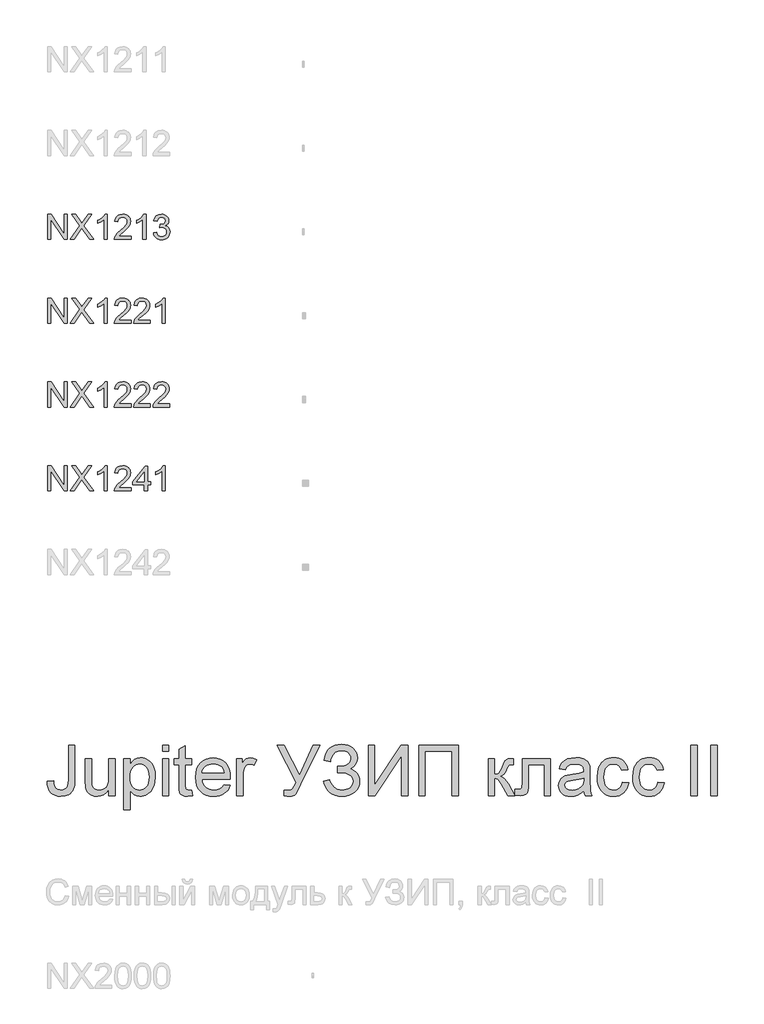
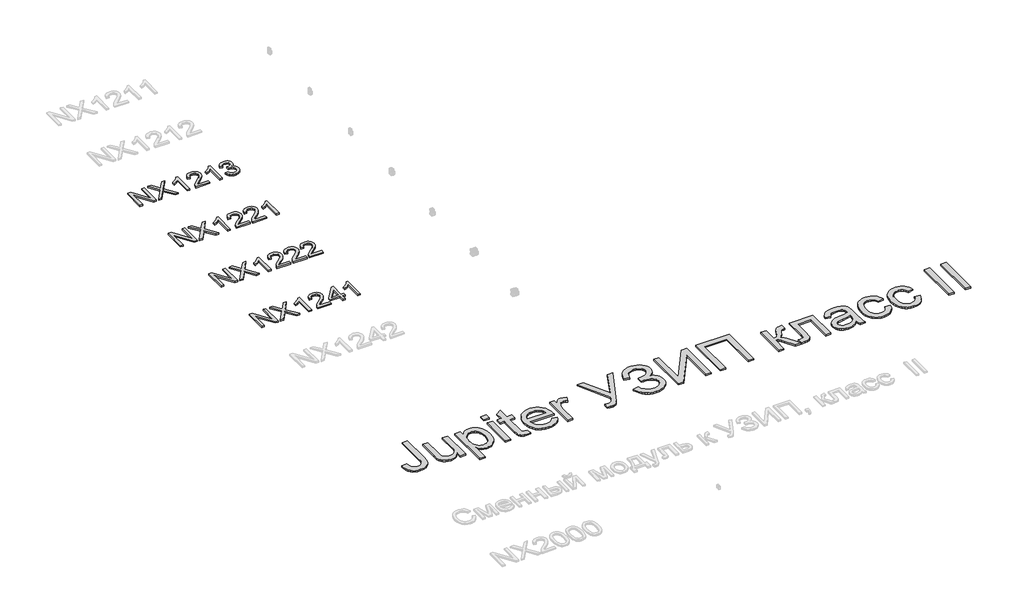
# One storey, part 29 of 124: 5 proxies.
"""IFC4 building model written with IfcOpenShell, lengths in millimetres."""

from ifc_helpers import new_model, si_unit, origin, origin_with_axes, place, context, project, spatial, polyline, outline, extrude, element, save

model = new_model("IFC4")

# Units and contexts
model_context = context("Model", 3, world=origin())
ifc_project = project(units=[si_unit("LENGTHUNIT", "METRE", prefix="MILLI")], contexts=[model_context])

# Site, building, storey
site = spatial("IfcSite", under=ifc_project)
building = spatial("IfcBuilding", under=site)
storey = spatial("IfcBuildingStorey", under=building, Name="Этаж 01", Elevation=0.0)

# Proxies
placement = place(None, origin())
element("IfcBuildingElementProxy", 1, Name="600 мм Arial", ObjectType="600 мм Arial", at=placement, inside=storey, context=model_context, shape_type="SweptSolid", body=[
    extrude(outline(polyline([(49495.1131782, -114647.4656715), (49570.4554108, -114637.7535868), (49573.1133582, -114667.7083783), (49578.2912973, -114692.5312159), (49585.989228, -114712.2220997), (49596.2071504, -114726.7810297), (49608.7887147, -114737.2748636), (49623.5775709, -114744.7704592), (49640.573719, -114749.2678166), (49659.7771592, -114750.7669358), (49687.6074321, -114747.3640273), (49711.3542149, -114737.1553019), (49729.6747383, -114721.0788588), (49741.2262329, -114700.0727968), (49747.3514681, -114669.6673499), (49749.3932132, -114625.3927518), (49749.3932132, -114213.9535284), (49824.7354458, -114213.9535284), (49824.7354458, -114624.0683766), (49820.1921032, -114691.1516584), (49814.5129249, -114718.2783571), (49806.5620753, -114741.1284275), (49796.1418178, -114760.6123777), (49783.0544158, -114777.6407155), (49767.2998693, -114792.213441), (49748.8781784, -114804.3305543), (49705.9647437, -114820.6645148), (49656.245492, -114826.1091684), (49619.1170017, -114823.2994696), (49586.6054304, -114814.8703734), (49558.7107781, -114800.8218797), (49535.4330448, -114781.1539886), (49517.1860979, -114755.9402763), (49504.3838044, -114725.2543194), (49497.0261645, -114689.0961178), (49495.1131782, -114647.4656715)])), origin_with_axes(), (0.0, 0.0, 1.0), 20.0),
    extrude(outline(polyline([(50229.6999461, -114816.6913893), (50229.6999461, -114740.6133927), (50202.4398903, -114778.0177946), (50170.6916741, -114804.7352245), (50134.4552976, -114820.7656824), (50093.7307607, -114826.1091684), (50057.0345317, -114822.356772), (50022.8766884, -114811.099583), (49994.218681, -114794.1770112), (49974.0219595, -114773.4284667), (49960.4287198, -114748.22855), (49951.5811578, -114717.9518618), (49947.1665738, -114647.9071299), (49947.1665738, -114374.0557727), (50022.5088064, -114374.0557727), (50022.5088064, -114612.4433056), (50023.6492406, -114660.1208122), (50027.0705432, -114689.2570662), (50038.0518207, -114714.8800471), (50056.8689848, -114734.3593988), (50082.2712366, -114746.6650515), (50113.0077773, -114750.7669358), (50145.5101515, -114746.573081), (50175.9155984, -114733.9915168), (50200.9867564, -114714.1810713), (50217.4862639, -114688.300573), (50226.6465256, -114652.8551427), (50229.6999461, -114604.3499017), (50229.6999461, -114374.0557727), (50305.0421787, -114374.0557727), (50305.0421787, -114816.6913893), (50229.6999461, -114816.6913893)])), origin_with_axes(), (0.0, 0.0, 1.0), 20.0),
    extrude(outline(polyline([(50408.6377486, -114986.2114127), (50408.6377486, -114374.0557727), (50483.9799812, -114374.0557727), (50483.9799812, -114447.9264773), (50508.5544985, -114411.4877657), (50536.0720717, -114385.4601146), (50568.1513817, -114369.8435239), (50606.4111092, -114364.6379936), (50632.6870807, -114366.4590095), (50657.3627655, -114371.9220571), (50680.4381637, -114381.0271365), (50701.9132751, -114393.7742476), (50721.3190504, -114409.8322967), (50738.1864399, -114428.87019), (50752.5154436, -114450.8879274), (50764.3060615, -114475.885509), (50780.0881991, -114531.398902), (50785.3489116, -114591.9890666), (50779.4076174, -114656.4235981), (50771.9809996, -114686.0886825), (50761.5837348, -114714.0523126), (50748.358377, -114739.5833231), (50732.4474807, -114761.9505484), (50713.8510459, -114781.1539886), (50692.5690725, -114797.1936436), (50669.6454256, -114809.8441857), (50646.1239706, -114818.8802872), (50622.0047073, -114824.3019481), (50597.2876357, -114826.1091684), (50562.6515459, -114821.2715201), (50531.7310642, -114806.7585754), (50505.2619546, -114784.8512026), (50483.9799812, -114757.8302701), (50483.9799812, -114986.2114127), (50408.6377486, -114986.2114127)]), holes=[polyline([(50483.9799812, -114598.9052482), (50486.0171277, -114635.2152011), (50492.1285674, -114666.4483825), (50502.3143001, -114692.6047923), (50516.574326, -114713.6844307), (50533.7406196, -114729.9080266), (50552.6451556, -114741.4963095), (50573.287934, -114748.4492792), (50595.6689549, -114750.7669358), (50618.3718726, -114748.3665057), (50639.3917301, -114741.1652157), (50658.7285274, -114729.1630656), (50676.3822647, -114712.3600555), (50691.092946, -114690.517062), (50701.6005754, -114663.3949619), (50707.9051531, -114630.9937552), (50710.006679, -114593.3134418), (50707.9557369, -114557.3161886), (50701.8029105, -114526.1381895), (50691.5481999, -114499.7794446), (50677.1916051, -114478.2399537), (50659.9839247, -114461.501323), (50641.1759577, -114449.5451581), (50620.767704, -114442.3714592), (50598.7591637, -114439.9802262), (50576.8196012, -114442.5232105), (50556.1768227, -114450.1521634), (50536.8308283, -114462.8670849), (50518.7816179, -114480.6679749), (50503.5559019, -114503.3157102), (50492.6803904, -114530.5711676), (50486.1550835, -114562.4343469), (50483.9799812, -114598.9052482)])]), origin_with_axes(), (0.0, 0.0, 1.0), 20.0),
    extrude(outline(polyline([(50870.1089233, -114289.295761), (50870.1089233, -114213.9535284), (50945.4511559, -114213.9535284), (50945.4511559, -114289.295761), (50870.1089233, -114289.295761)])), origin_with_axes(), (0.0, 0.0, 1.0), 20.0),
    extrude(outline(polyline([(50870.1089233, -114816.6913893), (50870.1089233, -114374.0557727), (50945.4511559, -114374.0557727), (50945.4511559, -114816.6913893), (50870.1089233, -114816.6913893)])), origin_with_axes(), (0.0, 0.0, 1.0), 20.0),
    extrude(outline(polyline([(51218.5667492, -114753.8571445), (51227.9845282, -114818.8986813), (51171.6250066, -114826.1091684), (51135.4622064, -114822.9821714), (51108.4964562, -114813.6011805), (51089.4401689, -114799.1434181), (51077.0057574, -114780.7861066), (51070.1631523, -114749.2586196), (51067.8822839, -114695.2903309), (51067.8822839, -114449.3980053), (51011.3756095, -114449.3980053), (51011.3756095, -114374.0557727), (51067.8822839, -114374.0557727), (51067.8822839, -114266.4870773), (51143.2245165, -114222.1940851), (51143.2245165, -114374.0557727), (51218.5667492, -114374.0557727), (51218.5667492, -114449.3980053), (51143.2245165, -114449.3980053), (51143.2245165, -114693.0830389), (51147.1976421, -114731.9313776), (51160.0735119, -114745.6901642), (51170.9444249, -114749.4977429), (51185.7516752, -114750.7669358), (51218.5667492, -114753.8571445)])), origin_with_axes(), (0.0, 0.0, 1.0), 20.0),
    extrude(outline(polyline([(51603.8127745, -114684.8424822), (51677.6834791, -114694.2602613), (51666.3573122, -114723.8471708), (51651.0672168, -114749.9208072), (51631.8131929, -114772.4811705), (51608.5952404, -114791.5282608), (51581.6524828, -114806.6574079), (51551.2240433, -114817.4639415), (51517.3099219, -114823.9478617), (51479.9101185, -114826.1091684), (51433.161514, -114822.3797647), (51391.5080751, -114811.1915535), (51354.9498018, -114792.5445348), (51323.4866942, -114766.4387088), (51298.18561, -114733.6006422), (51280.113407, -114694.756902), (51269.2700851, -114649.9074883), (51265.6556445, -114599.052401), (51269.3068733, -114546.4728668), (51280.2605598, -114500.1289325), (51298.5167038, -114460.0205979), (51324.0753054, -114426.1478632), (51355.4556396, -114399.2372953), (51391.1769813, -114380.015461), (51431.2393306, -114368.4823605), (51475.6426874, -114364.6379936), (51518.615903, -114368.4731634), (51557.4780372, -114379.9786728), (51592.2290902, -114399.1545218), (51622.8690619, -114426.0007104), (51647.880439, -114459.7998687), (51665.7457084, -114499.8346269), (51676.46487, -114546.1049848), (51680.0379239, -114598.6109426), (51679.5964655, -114618.9180287), (51340.9978772, -114618.9180287), (51345.3618773, -114648.9831847), (51354.0392939, -114675.3143386), (51367.0301268, -114697.9114901), (51384.3343762, -114716.7746394), (51404.9955487, -114731.6462691), (51428.0571513, -114742.2688617), (51453.5191839, -114748.6424172), (51481.3816465, -114750.7669358), (51521.480784, -114746.8305984), (51555.2523511, -114735.0215864), (51582.696348, -114714.6041356), (51603.8127745, -114684.8424822)]), holes=[polyline([(51340.9978772, -114543.5757961), (51604.6956913, -114543.5757961), (51594.50536, -114503.7709642), (51585.7405715, -114488.1175853), (51574.5293677, -114475.2968978), (51553.9831583, -114459.845854), (51530.6042575, -114448.8093941), (51504.3926653, -114442.1875182), (51475.3483818, -114439.9802262), (51448.8562796, -114441.7414613), (51424.5622724, -114447.0251664), (51402.46636, -114455.8313417), (51382.5685426, -114468.1599871), (51365.8712986, -114483.4408854), (51353.3771063, -114501.1038197), (51345.0859658, -114521.14879), (51340.9978772, -114543.5757961)])]), origin_with_axes(), (0.0, 0.0, 1.0), 20.0),
    extrude(outline(polyline([(51755.3801565, -114816.6913893), (51755.3801565, -114374.0557727), (51821.3046101, -114374.0557727), (51821.3046101, -114439.5387678), (51845.6583981, -114401.5733459), (51868.0991998, -114379.2061206), (51890.6135779, -114368.2800254), (51915.1880952, -114364.6379936), (51952.7120587, -114370.4505292), (51990.8246334, -114387.8881357), (51965.661505, -114455.43127), (51939.1740013, -114443.8429872), (51912.6864977, -114439.9802262), (51890.1905137, -114443.6958344), (51870.0857626, -114454.8426588), (51853.8437725, -114472.574571), (51842.9360714, -114496.0454423), (51833.7758097, -114538.1311426), (51830.7223891, -114584.0428156), (51830.7223891, -114816.6913893), (51755.3801565, -114816.6913893)])), origin_with_axes(), (0.0, 0.0, 1.0), 20.0),
    extrude(outline(polyline([(52240.395779, -114213.9535284), (52323.8314155, -114213.9535284), (52504.0935931, -114570.9462165), (52666.2559766, -114213.9535284), (52748.9558491, -114213.9535284), (52520.1332481, -114683.518107), (52485.5891287, -114756.4323185), (52457.8876145, -114798.8859007), (52444.4323305, -114810.7960803), (52428.3466903, -114819.3033515), (52409.6306938, -114824.4077141), (52388.284341, -114826.1091684), (52357.492618, -114823.7547236), (52320.4469011, -114816.6913893), (52320.4469011, -114750.7669358), (52379.7494787, -114750.7669358), (52403.4778674, -114746.573081), (52423.7481654, -114733.9915168), (52443.2091229, -114706.5107317), (52464.5094904, -114657.6192146), (52240.395779, -114213.9535284)])), origin_with_axes(), (0.0, 0.0, 1.0), 20.0),
    extrude(outline(polyline([(52791.3358549, -114647.1713659), (52866.6780876, -114628.3358078), (52872.8263154, -114648.7210688), (52882.5889838, -114669.1155269), (52912.9576425, -114709.9320343), (52933.2877213, -114727.7973037), (52956.6804177, -114740.5582104), (52983.1357316, -114748.2147544), (53012.6536632, -114750.7669358), (53042.6866296, -114748.8493509), (53069.3626728, -114743.0965962), (53092.6817928, -114733.5086717), (53112.6439895, -114720.0855774), (53128.6422578, -114703.9493534), (53140.0695923, -114686.2220397), (53146.925993, -114666.9036364), (53149.2114598, -114645.9941435), (53146.7144608, -114623.7234873), (53139.2234637, -114603.853261), (53126.7384685, -114586.3834647), (53109.2594752, -114571.3140985), (53087.4762625, -114559.1785912), (53062.0786093, -114550.5103717), (53033.0665154, -114545.30944), (53000.439981, -114543.5757961), (52960.8558783, -114543.5757961), (52960.8558783, -114468.2335635), (53010.0600952, -114466.7068532), (53046.1309248, -114462.1267223), (53073.9244095, -114451.2742035), (53098.2965917, -114430.9303292), (53115.2927399, -114404.1301258), (53120.9581226, -114373.9086199), (53119.0727274, -114355.5467098), (53113.4165417, -114338.4264015), (53103.9895656, -114322.5476949), (53090.791799, -114307.91059), (53074.375065, -114295.646324), (53055.2911865, -114286.8861339), (53033.5401635, -114281.6300199), (53009.1219961, -114279.8779819), (52967.3857837, -114285.2674532), (52932.2346591, -114301.4358669), (52905.305697, -114326.5070248), (52888.2359725, -114358.6047289), (52879.1308931, -114389.6907575), (52876.0958666, -114411.726889), (52800.753634, -114392.8913309), (52810.0817419, -114348.7454914), (52824.160126, -114310.4857639), (52842.9887863, -114278.1121484), (52866.567723, -114251.6246447), (52894.8969358, -114231.023253), (52927.976425, -114216.3079732), (52965.8061904, -114207.4788053), (53008.3862321, -114204.5357493), (53049.4096731, -114207.5937684), (53085.9541508, -114216.7678257), (53118.0196652, -114232.0579211), (53145.6062163, -114253.4640547), (53167.7849021, -114278.9628755), (53183.6268205, -114306.5310325), (53193.1319715, -114336.1685257), (53196.3003552, -114367.8753552), (53191.3707365, -114407.5238372), (53176.5818803, -114442.4450356), (53151.9337866, -114472.6389504), (53117.4264555, -114498.1055815), (53139.3062371, -114506.0932193), (53159.3282147, -114517.4009921), (53177.4923882, -114532.0289), (53193.7987577, -114549.9769428), (53207.2540416, -114570.5461449), (53216.8649588, -114593.0375303), (53222.631509, -114617.4510992), (53224.5536925, -114643.7868516), (53220.8656755, -114681.0486992), (53209.8016245, -114715.1375645), (53191.3615394, -114746.0534477), (53165.5454204, -114773.7963487), (53133.6408544, -114796.6832073), (53096.9354283, -114813.0309634), (53055.4291422, -114822.8396171), (53009.1219961, -114826.1091684), (52969.087238, -114823.3132652), (52932.7129057, -114814.9255557), (52899.9989993, -114800.9460399), (52870.9455187, -114781.3747178), (52845.552464, -114756.2115893), (52823.8198351, -114725.4566545), (52805.7476321, -114689.1099134), (52791.3358549, -114647.1713659)])), origin_with_axes(), (0.0, 0.0, 1.0), 20.0),
    extrude(outline(polyline([(53328.1492623, -114213.9535284), (53403.4914949, -114213.9535284), (53403.4914949, -114691.3172053), (53718.987094, -114213.9535284), (53799.0382161, -114213.9535284), (53799.0382161, -114816.6913893), (53723.6959835, -114816.6913893), (53723.6959835, -114340.6520875), (53408.9361484, -114816.6913893), (53328.1492623, -114816.6913893), (53328.1492623, -114213.9535284)])), origin_with_axes(), (0.0, 0.0, 1.0), 20.0),
    extrude(outline(polyline([(53930.8871232, -114213.9535284), (54401.776077, -114213.9535284), (54401.776077, -114816.6913893), (54326.4338444, -114816.6913893), (54326.4338444, -114289.295761), (54006.2293558, -114289.295761), (54006.2293558, -114816.6913893), (53930.8871232, -114816.6913893), (53930.8871232, -114213.9535284)])), origin_with_axes(), (0.0, 0.0, 1.0), 20.0),
    extrude(outline(polyline([(54759.6516819, -114374.0557727), (54834.9939145, -114374.0557727), (54834.9939145, -114562.4113542), (54865.6384847, -114559.0268399), (54885.4673243, -114548.8732968), (54903.0152955, -114522.3857932), (54926.8172605, -114469.999397), (54946.0023066, -114427.1595387), (54961.1774389, -114401.9412279), (54975.3408957, -114388.2008354), (54991.4909153, -114379.7947318), (55013.8397465, -114375.4905125), (55046.5996382, -114374.0557727), (55061.0206124, -114374.0557727), (55061.0206124, -114449.8394637), (55040.7135262, -114449.3980053), (55017.1690786, -114451.3845681), (55003.9253267, -114457.3442564), (54993.1831725, -114473.9357344), (54978.0264343, -114506.9347494), (54962.115538, -114539.9889466), (54947.6393815, -114560.5719443), (54930.1098044, -114574.3123368), (54905.0386464, -114586.8387187), (54928.9141879, -114597.4429172), (54952.5690002, -114616.1589137), (54976.0030833, -114642.9867082), (54999.2164372, -114677.9263007), (55079.8561705, -114816.6913893), (54994.2132421, -114816.6913893), (54915.1921895, -114680.8693567), (54893.8550338, -114644.7249507), (54875.460934, -114623.406189), (54856.8828933, -114612.9767345), (54834.9939145, -114609.5002496), (54834.9939145, -114816.6913893), (54759.6516819, -114816.6913893), (54759.6516819, -114374.0557727)])), origin_with_axes(), (0.0, 0.0, 1.0), 20.0),
    extrude(outline(polyline([(55164.6161822, -114374.0557727), (55503.656229, -114374.0557727), (55503.656229, -114816.2499309), (55428.3139964, -114816.2499309), (55428.3139964, -114449.3980053), (55239.9584148, -114449.3980053), (55239.9584148, -114660.5622705), (55238.689222, -114721.8514109), (55234.8816433, -114757.9774229), (55225.3718937, -114780.0319485), (55206.9961881, -114799.1066299), (55179.1107328, -114812.2951995), (55141.0717345, -114816.6913893), (55079.8561705, -114812.8654166), (55079.8561705, -114741.3491567), (55113.5541613, -114741.3491567), (55133.9900061, -114740.1903284), (55147.620034, -114736.7138435), (55156.1365022, -114730.717367), (55161.2316679, -114721.9985637), (55164.6161822, -114656.2948394), (55164.6161822, -114374.0557727)])), origin_with_axes(), (0.0, 0.0, 1.0), 20.0),
    extrude(outline(polyline([(55899.2029502, -114760.1847148), (55863.205697, -114791.0500142), (55826.141586, -114811.2467358), (55787.1644886, -114822.3935602), (55745.4282762, -114826.1091684), (55711.8820368, -114823.8742853), (55682.4652727, -114817.1696359), (55657.1779841, -114805.9952203), (55636.0201708, -114790.3510384), (55619.3137297, -114771.2303717), (55607.3805575, -114749.6265016), (55600.2206542, -114725.5394279), (55597.8340197, -114698.9691508), (55601.4392633, -114667.7359695), (55612.254994, -114639.3722676), (55628.9384424, -114615.0920559), (55650.1468395, -114596.109345), (55675.0708446, -114581.7619472), (55702.9011176, -114571.3876749), (55768.0898071, -114560.0569095), (55845.1242969, -114548.1375328), (55898.7614918, -114534.158017), (55899.2029502, -114517.382598), (55894.0158141, -114483.7581837), (55887.5318939, -114471.3053781), (55878.4544057, -114461.7588404), (55862.7642386, -114452.2306967), (55843.6527689, -114445.4248798), (55795.165922, -114439.9802262), (55750.2843185, -114443.6038639), (55718.9407726, -114454.4747768), (55697.5668286, -114474.5795279), (55682.5940314, -114505.9046798), (55607.2517988, -114496.4869007), (55620.3300037, -114455.2841172), (55639.8461436, -114422.9105017), (55667.6212342, -114398.1520434), (55705.4762915, -114379.7947318), (55751.7742406, -114368.4271782), (55804.8780066, -114364.6379936), (55855.8112689, -114367.9857198), (55896.1863178, -114378.0288983), (55926.6285529, -114393.1304542), (55947.7633736, -114411.6533126), (55961.7796776, -114434.5539668), (55970.8663629, -114462.7889099), (55974.5451828, -114528.7133635), (55974.5451828, -114622.4496958), (55978.3711556, -114753.3421097), (55984.0365383, -114785.6973312), (55993.380741, -114816.6913893), (55918.0385083, -114816.6913893), (55905.9719789, -114790.4981912), (55899.2029502, -114760.1847148)]), holes=[polyline([(55899.2029502, -114609.5002496), (55848.5823877, -114622.0450257), (55777.654739, -114632.6032389), (55712.8339314, -114644.8169212), (55695.966542, -114653.1678424), (55683.4769482, -114664.6825489), (55675.7514263, -114678.4781237), (55673.1762524, -114693.6716501), (55678.7864528, -114716.0756636), (55695.6170541, -114734.4329752), (55723.3001742, -114746.6834456), (55761.4679312, -114750.7669358), (55801.9349507, -114746.2603813), (55837.6930806, -114732.740718), (55866.6821818, -114712.819908), (55886.8421152, -114689.1099134), (55895.7816476, -114664.6825489), (55898.7614918, -114630.8374053), (55899.2029502, -114609.5002496)])]), origin_with_axes(), (0.0, 0.0, 1.0), 20.0),
    extrude(outline(polyline([(56360.6741249, -114656.589145), (56436.0163576, -114666.0069241), (56427.8217861, -114701.5581204), (56415.0102956, -114733.0166295), (56397.5818861, -114760.3824514), (56375.5365575, -114783.6555861), (56349.803212, -114802.2290284), (56321.3107515, -114815.4957728), (56290.059176, -114823.4558195), (56256.0484855, -114826.1091684), (56213.7926398, -114822.4073558), (56175.9053929, -114811.3019181), (56142.3867446, -114792.7928552), (56113.236695, -114766.8801672), (56089.6416635, -114734.0512976), (56072.7880696, -114694.7936902), (56062.6759133, -114649.1073449), (56059.3051945, -114596.9922618), (56065.0625477, -114529.9457682), (56072.2592392, -114499.774846), (56082.3346074, -114471.838807), (56095.35763, -114446.6986712), (56111.397285, -114424.9154585), (56130.4535724, -114406.4891691), (56152.5264921, -114391.4198029), (56176.6181642, -114379.7027613), (56201.7307089, -114371.3334459), (56227.8641262, -114366.3118567), (56255.0184159, -114364.6379936), (56288.4450937, -114366.9372561), (56318.6803952, -114373.8350435), (56345.7243204, -114385.3313559), (56369.5768692, -114401.4261931), (56389.8333716, -114421.7516734), (56406.0891572, -114445.9399146), (56418.3442262, -114473.9909167), (56426.5985785, -114505.9046798), (56351.2563459, -114515.3224589), (56337.5895297, -114482.4522026), (56316.3075563, -114458.8893608), (56288.587648, -114444.7075099), (56255.6070271, -114439.9802262), (56230.0070388, -114442.3070799), (56206.9178451, -114449.2876407), (56186.339446, -114460.9219088), (56168.2718415, -114477.2098842), (56153.5611602, -114498.5286458), (56143.0535307, -114525.2552727), (56136.748953, -114557.389765), (56134.6474271, -114594.9321226), (56136.7029678, -114633.0400988), (56142.8695897, -114665.5470716), (56153.1472929, -114692.453041), (56167.5360775, -114713.758007), (56185.244997, -114729.9494134), (56205.4831053, -114741.5147036), (56228.2504023, -114748.4538777), (56253.5468879, -114750.7669358), (56292.5607735, -114744.9911884), (56309.4327615, -114737.7715043), (56324.548113, -114727.6639465), (56337.4837637, -114714.5581504), (56347.8166492, -114698.3437515), (56355.5467696, -114679.0207497), (56360.6741249, -114656.589145)])), origin_with_axes(), (0.0, 0.0, 1.0), 20.0),
    extrude(outline(polyline([(56784.4741834, -114656.589145), (56859.816416, -114666.0069241), (56851.6218446, -114701.5581204), (56838.8103541, -114733.0166295), (56821.3819446, -114760.3824514), (56799.336616, -114783.6555861), (56773.6032704, -114802.2290284), (56745.1108099, -114815.4957728), (56713.8592344, -114823.4558195), (56679.848544, -114826.1091684), (56637.5926983, -114822.4073558), (56599.7054513, -114811.3019181), (56566.186803, -114792.7928552), (56537.0367534, -114766.8801672), (56513.441722, -114734.0512976), (56496.5881281, -114694.7936902), (56486.4759717, -114649.1073449), (56483.1052529, -114596.9922618), (56488.8626062, -114529.9457682), (56496.0592977, -114499.774846), (56506.1346658, -114471.838807), (56519.1576885, -114446.6986712), (56535.1973435, -114424.9154585), (56554.2536308, -114406.4891691), (56576.3265505, -114391.4198029), (56600.4182227, -114379.7027613), (56625.5307674, -114371.3334459), (56651.6641846, -114366.3118567), (56678.8184744, -114364.6379936), (56712.2451522, -114366.9372561), (56742.4804536, -114373.8350435), (56769.5243788, -114385.3313559), (56793.3769277, -114401.4261931), (56813.63343, -114421.7516734), (56829.8892157, -114445.9399146), (56842.1442847, -114473.9909167), (56850.3986369, -114505.9046798), (56775.0564043, -114515.3224589), (56761.3895882, -114482.4522026), (56740.1076148, -114458.8893608), (56712.3877064, -114444.7075099), (56679.4070856, -114439.9802262), (56653.8070972, -114442.3070799), (56630.7179035, -114449.2876407), (56610.1395044, -114460.9219088), (56592.0718999, -114477.2098842), (56577.3612186, -114498.5286458), (56566.8535891, -114525.2552727), (56560.5490114, -114557.389765), (56558.4474855, -114594.9321226), (56560.5030262, -114633.0400988), (56566.6696481, -114665.5470716), (56576.9473514, -114692.453041), (56591.3361359, -114713.758007), (56609.0450555, -114729.9494134), (56629.2831637, -114741.5147036), (56652.0504607, -114748.4538777), (56677.3469464, -114750.7669358), (56716.360832, -114744.9911884), (56733.23282, -114737.7715043), (56748.3481715, -114727.6639465), (56761.2838221, -114714.5581504), (56771.6167077, -114698.3437515), (56779.3468281, -114679.0207497), (56784.4741834, -114656.589145)])), origin_with_axes(), (0.0, 0.0, 1.0), 20.0),
    extrude(outline(polyline([(57180.0209046, -114816.6913893), (57180.0209046, -114213.9535284), (57255.3631372, -114213.9535284), (57255.3631372, -114816.6913893), (57180.0209046, -114816.6913893)])), origin_with_axes(), (0.0, 0.0, 1.0), 20.0),
    extrude(outline(polyline([(57415.4653815, -114816.6913893), (57415.4653815, -114213.9535284), (57490.8076141, -114213.9535284), (57490.8076141, -114816.6913893), (57415.4653815, -114816.6913893)])), origin_with_axes(), (0.0, 0.0, 1.0), 20.0),
])
element("IfcBuildingElementProxy", 2, Name="300", ObjectType="300", at=placement, inside=storey, context=model_context, shape_type="SweptSolid", body=[
    extrude(outline(polyline([(49499.8220677, -108181.4490745), (49499.8220677, -107880.080144), (49540.1419344, -107880.080144), (49697.5954283, -108118.8355589), (49697.5954283, -107880.080144), (49735.2665446, -107880.080144), (49735.2665446, -108181.4490745), (49694.9466779, -108181.4490745), (49537.493184, -107942.6200832), (49537.493184, -108181.4490745), (49499.8220677, -108181.4490745)])), origin_with_axes(), (0.0, 0.0, 1.0), 20.0),
    extrude(outline(polyline([(49768.2287714, -108181.4490745), (49884.4059055, -108017.2265518), (49787.0643295, -107880.080144), (49832.2402385, -107880.080144), (49887.0546558, -107957.2617866), (49905.522332, -107987.3545338), (49927.1537933, -107956.7467518), (49981.3795994, -107880.080144), (50027.217696, -107880.080144), (49929.8761201, -108017.6680102), (50046.0532541, -108181.4490745), (50000.8773451, -108181.4490745), (49923.4749733, -108072.2616983), (49907.361742, -108049.6001674), (49889.6298298, -108074.4689903), (49814.066868, -108181.4490745), (49768.2287714, -108181.4490745)])), origin_with_axes(), (0.0, 0.0, 1.0), 20.0),
    extrude(outline(polyline([(50210.864388, -108181.4490745), (50173.1932717, -108181.4490745), (50173.1932717, -107946.5932087), (50137.5087181, -107972.0138546), (50097.8510391, -107991.0333538), (50097.8510391, -107955.4223766), (50127.4379485, -107939.3275393), (50153.0701265, -107920.1792815), (50173.2760451, -107899.817013), (50186.5841763, -107880.080144), (50210.864388, -107880.080144), (50210.864388, -108181.4490745)])), origin_with_axes(), (0.0, 0.0, 1.0), 20.0),
    extrude(outline(polyline([(50493.3977603, -108143.7779581), (50493.3977603, -108181.4490745), (50295.6243997, -108181.4490745), (50299.6711016, -108155.4766056), (50308.960122, -108135.1787165), (50322.5533617, -108115.4878327), (50342.2166543, -108094.8772439), (50369.7158335, -108071.8202399), (50410.366794, -108035.7126221), (50434.7573702, -108009.0595715), (50446.9526584, -107987.4281102), (50451.0177544, -107966.3852601), (50447.1825846, -107947.5221108), (50435.6770752, -107931.8411407), (50417.9911483, -107921.2737304), (50395.6147259, -107917.7512603), (50372.1162635, -107921.190957), (50353.8601195, -107931.5100469), (50342.0786986, -107947.8991898), (50338.0044055, -107969.5490452), (50300.3332892, -107964.8401557), (50309.4659597, -107928.4014441), (50318.0123183, -107913.8655067), (50329.2120258, -107901.7851817), (50342.8075648, -107892.2892277), (50358.5414179, -107885.5064034), (50396.4240663, -107880.080144), (50416.6138901, -107881.5884602), (50434.5826263, -107886.1134087), (50450.3302749, -107893.6549896), (50463.8568361, -107904.2132029), (50474.7208512, -107917.0062993), (50482.4808621, -107931.2525295), (50487.1368686, -107946.9518937), (50488.6888707, -107964.1043917), (50487.0150077, -107982.1214124), (50481.9934184, -107999.8257334), (50473.0814771, -108017.8335571), (50459.7365577, -108036.7610858), (50438.4637813, -108059.3582373), (50405.768269, -108088.3749297), (50362.43177, -108124.6113062), (50345.4356218, -108143.7779581), (50493.3977603, -108143.7779581)])), origin_with_axes(), (0.0, 0.0, 1.0), 20.0),
    extrude(outline(polyline([(50672.3355627, -108181.4490745), (50634.6644464, -108181.4490745), (50634.6644464, -107946.5932087), (50598.9798929, -107972.0138546), (50559.3222138, -107991.0333538), (50559.3222138, -107955.4223766), (50588.9091233, -107939.3275393), (50614.5413013, -107920.1792815), (50634.7472199, -107899.817013), (50648.055351, -107880.080144), (50672.3355627, -107880.080144), (50672.3355627, -108181.4490745)])), origin_with_axes(), (0.0, 0.0, 1.0), 20.0),
    extrude(outline(polyline([(50761.8044639, -108101.3979523), (50799.4755803, -108096.6890628), (50807.909275, -108120.3622692), (50820.260913, -108136.3467418), (50837.1374995, -108145.4518212), (50859.1460399, -108148.4868477), (50884.9713559, -108144.311387), (50904.9105601, -108131.7850051), (50917.6576712, -108113.0965997), (50921.9067082, -108090.4350688), (50917.6944594, -108068.9231692), (50905.0577129, -108051.4763656), (50885.9278491, -108039.9156739), (50862.2362486, -108036.06211), (50835.8223214, -108040.1823883), (50840.0161761, -108002.511272), (50846.0494408, -108002.9527304), (50868.6190012, -108000.2487977), (50888.7973287, -107992.1369997), (50903.0343619, -107978.4150013), (50907.7800396, -107958.8804674), (50904.340343, -107942.6108861), (50894.021253, -107929.4131196), (50878.2759036, -107920.6667251), (50858.5574287, -107917.7512603), (50838.8021655, -107920.6943163), (50822.652146, -107929.5234842), (50810.861528, -107944.238764), (50804.1844698, -107964.8401557), (50766.5133535, -107960.1312662), (50777.6049956, -107926.3045167), (50797.3418647, -107901.0494177), (50824.3444031, -107885.3224624), (50857.2330535, -107880.080144), (50880.9154569, -107882.664515), (50902.6664799, -107890.4176281), (50921.0053974, -107902.6497044), (50934.4514843, -107918.6709653), (50942.701238, -107937.1294444), (50945.4511559, -107956.6731754), (50942.8391938, -107974.8833342), (50935.0033073, -107991.4012357), (50922.053861, -108005.4727221), (50904.1012197, -108016.343635), (50927.6824556, -108025.8717787), (50945.1568503, -108042.0953747), (50955.972581, -108064.1315062), (50959.5778246, -108091.0972564), (50957.7752028, -108110.2087261), (50952.3673374, -108127.8118796), (50943.3542286, -108143.9067168), (50930.7358761, -108158.493238), (50915.3630073, -108170.5965556), (50898.0863491, -108179.2417825), (50878.9059015, -108184.4289186), (50857.8216647, -108186.157964), (50838.7653773, -108184.6818375), (50821.4013472, -108180.253458), (50805.7295742, -108172.8728254), (50791.7500584, -108162.5399399), (50780.0284183, -108149.8618066), (50771.1302725, -108135.445431), (50765.0556211, -108119.2908128), (50761.8044639, -108101.3979523)])), origin_with_axes(), (0.0, 0.0, 1.0), 20.0),
])
element("IfcBuildingElementProxy", 3, Name="300", ObjectType="300", at=placement, inside=storey, context=model_context, shape_type="SweptSolid", body=[
    extrude(outline(polyline([(49499.8220677, -109181.4490745), (49499.8220677, -108880.080144), (49540.1419344, -108880.080144), (49697.5954283, -109118.8355589), (49697.5954283, -108880.080144), (49735.2665446, -108880.080144), (49735.2665446, -109181.4490745), (49694.9466779, -109181.4490745), (49537.493184, -108942.6200832), (49537.493184, -109181.4490745), (49499.8220677, -109181.4490745)])), origin_with_axes(), (0.0, 0.0, 1.0), 20.0),
    extrude(outline(polyline([(49768.2287714, -109181.4490745), (49884.4059055, -109017.2265518), (49787.0643295, -108880.080144), (49832.2402385, -108880.080144), (49887.0546558, -108957.2617866), (49905.522332, -108987.3545338), (49927.1537933, -108956.7467518), (49981.3795994, -108880.080144), (50027.217696, -108880.080144), (49929.8761201, -109017.6680102), (50046.0532541, -109181.4490745), (50000.8773451, -109181.4490745), (49923.4749733, -109072.2616983), (49907.361742, -109049.6001674), (49889.6298298, -109074.4689903), (49814.066868, -109181.4490745), (49768.2287714, -109181.4490745)])), origin_with_axes(), (0.0, 0.0, 1.0), 20.0),
    extrude(outline(polyline([(50210.864388, -109181.4490745), (50173.1932717, -109181.4490745), (50173.1932717, -108946.5932087), (50137.5087181, -108972.0138546), (50097.8510391, -108991.0333538), (50097.8510391, -108955.4223766), (50127.4379485, -108939.3275393), (50153.0701265, -108920.1792815), (50173.2760451, -108899.817013), (50186.5841763, -108880.080144), (50210.864388, -108880.080144), (50210.864388, -109181.4490745)])), origin_with_axes(), (0.0, 0.0, 1.0), 20.0),
    extrude(outline(polyline([(50493.3977603, -109143.7779581), (50493.3977603, -109181.4490745), (50295.6243997, -109181.4490745), (50299.6711016, -109155.4766056), (50308.960122, -109135.1787165), (50322.5533617, -109115.4878327), (50342.2166543, -109094.8772439), (50369.7158335, -109071.8202399), (50410.366794, -109035.7126221), (50434.7573702, -109009.0595715), (50446.9526584, -108987.4281102), (50451.0177544, -108966.3852601), (50447.1825846, -108947.5221108), (50435.6770752, -108931.8411407), (50417.9911483, -108921.2737304), (50395.6147259, -108917.7512603), (50372.1162635, -108921.190957), (50353.8601195, -108931.5100469), (50342.0786986, -108947.8991898), (50338.0044055, -108969.5490452), (50300.3332892, -108964.8401557), (50309.4659597, -108928.4014441), (50318.0123183, -108913.8655067), (50329.2120258, -108901.7851817), (50342.8075648, -108892.2892277), (50358.5414179, -108885.5064034), (50396.4240663, -108880.080144), (50416.6138901, -108881.5884602), (50434.5826263, -108886.1134087), (50450.3302749, -108893.6549896), (50463.8568361, -108904.2132029), (50474.7208512, -108917.0062993), (50482.4808621, -108931.2525295), (50487.1368686, -108946.9518937), (50488.6888707, -108964.1043917), (50487.0150077, -108982.1214124), (50481.9934184, -108999.8257334), (50473.0814771, -109017.8335571), (50459.7365577, -109036.7610858), (50438.4637813, -109059.3582373), (50405.768269, -109088.3749297), (50362.43177, -109124.6113062), (50345.4356218, -109143.7779581), (50493.3977603, -109143.7779581)])), origin_with_axes(), (0.0, 0.0, 1.0), 20.0),
    extrude(outline(polyline([(50724.1333476, -109143.7779581), (50724.1333476, -109181.4490745), (50526.359987, -109181.4490745), (50530.406689, -109155.4766056), (50539.6957094, -109135.1787165), (50553.2889491, -109115.4878327), (50572.9522417, -109094.8772439), (50600.4514209, -109071.8202399), (50641.1023813, -109035.7126221), (50665.4929576, -109009.0595715), (50677.6882458, -108987.4281102), (50681.7533418, -108966.3852601), (50677.918172, -108947.5221108), (50666.4126626, -108931.8411407), (50648.7267357, -108921.2737304), (50626.3503133, -108917.7512603), (50602.8518509, -108921.190957), (50584.5957069, -108931.5100469), (50572.814286, -108947.8991898), (50568.7399929, -108969.5490452), (50531.0688766, -108964.8401557), (50540.2015471, -108928.4014441), (50548.7479057, -108913.8655067), (50559.9476132, -108901.7851817), (50573.5431522, -108892.2892277), (50589.2770053, -108885.5064034), (50627.1596537, -108880.080144), (50647.3494775, -108881.5884602), (50665.3182137, -108886.1134087), (50681.0658623, -108893.6549896), (50694.5924234, -108904.2132029), (50705.4564386, -108917.0062993), (50713.2164494, -108931.2525295), (50717.8724559, -108946.9518937), (50719.4244581, -108964.1043917), (50717.750595, -108982.1214124), (50712.7290058, -108999.8257334), (50703.8170645, -109017.8335571), (50690.4721451, -109036.7610858), (50669.1993687, -109059.3582373), (50636.5038564, -109088.3749297), (50593.1673574, -109124.6113062), (50576.1712092, -109143.7779581), (50724.1333476, -109143.7779581)])), origin_with_axes(), (0.0, 0.0, 1.0), 20.0),
    extrude(outline(polyline([(50903.0711501, -109181.4490745), (50865.4000338, -109181.4490745), (50865.4000338, -108946.5932087), (50829.7154803, -108972.0138546), (50790.0578012, -108991.0333538), (50790.0578012, -108955.4223766), (50819.6447106, -108939.3275393), (50845.2768887, -108920.1792815), (50865.4828072, -108899.817013), (50878.7909384, -108880.080144), (50903.0711501, -108880.080144), (50903.0711501, -109181.4490745)])), origin_with_axes(), (0.0, 0.0, 1.0), 20.0),
])
element("IfcBuildingElementProxy", 4, Name="300", ObjectType="300", at=placement, inside=storey, context=model_context, shape_type="SweptSolid", body=[
    extrude(outline(polyline([(49499.8220677, -110181.4490745), (49499.8220677, -109880.080144), (49540.1419344, -109880.080144), (49697.5954283, -110118.8355589), (49697.5954283, -109880.080144), (49735.2665446, -109880.080144), (49735.2665446, -110181.4490745), (49694.9466779, -110181.4490745), (49537.493184, -109942.6200832), (49537.493184, -110181.4490745), (49499.8220677, -110181.4490745)])), origin_with_axes(), (0.0, 0.0, 1.0), 20.0),
    extrude(outline(polyline([(49768.2287714, -110181.4490745), (49884.4059055, -110017.2265518), (49787.0643295, -109880.080144), (49832.2402385, -109880.080144), (49887.0546558, -109957.2617866), (49905.522332, -109987.3545338), (49927.1537933, -109956.7467518), (49981.3795994, -109880.080144), (50027.217696, -109880.080144), (49929.8761201, -110017.6680102), (50046.0532541, -110181.4490745), (50000.8773451, -110181.4490745), (49923.4749733, -110072.2616983), (49907.361742, -110049.6001674), (49889.6298298, -110074.4689903), (49814.066868, -110181.4490745), (49768.2287714, -110181.4490745)])), origin_with_axes(), (0.0, 0.0, 1.0), 20.0),
    extrude(outline(polyline([(50210.864388, -110181.4490745), (50173.1932717, -110181.4490745), (50173.1932717, -109946.5932087), (50137.5087181, -109972.0138546), (50097.8510391, -109991.0333538), (50097.8510391, -109955.4223766), (50127.4379485, -109939.3275393), (50153.0701265, -109920.1792815), (50173.2760451, -109899.817013), (50186.5841763, -109880.080144), (50210.864388, -109880.080144), (50210.864388, -110181.4490745)])), origin_with_axes(), (0.0, 0.0, 1.0), 20.0),
    extrude(outline(polyline([(50493.3977603, -110143.7779581), (50493.3977603, -110181.4490745), (50295.6243997, -110181.4490745), (50299.6711016, -110155.4766056), (50308.960122, -110135.1787165), (50322.5533617, -110115.4878327), (50342.2166543, -110094.8772439), (50369.7158335, -110071.8202399), (50410.366794, -110035.7126221), (50434.7573702, -110009.0595715), (50446.9526584, -109987.4281102), (50451.0177544, -109966.3852601), (50447.1825846, -109947.5221108), (50435.6770752, -109931.8411407), (50417.9911483, -109921.2737304), (50395.6147259, -109917.7512603), (50372.1162635, -109921.190957), (50353.8601195, -109931.5100469), (50342.0786986, -109947.8991898), (50338.0044055, -109969.5490452), (50300.3332892, -109964.8401557), (50309.4659597, -109928.4014441), (50318.0123183, -109913.8655067), (50329.2120258, -109901.7851817), (50342.8075648, -109892.2892277), (50358.5414179, -109885.5064034), (50396.4240663, -109880.080144), (50416.6138901, -109881.5884602), (50434.5826263, -109886.1134087), (50450.3302749, -109893.6549896), (50463.8568361, -109904.2132029), (50474.7208512, -109917.0062993), (50482.4808621, -109931.2525295), (50487.1368686, -109946.9518937), (50488.6888707, -109964.1043917), (50487.0150077, -109982.1214124), (50481.9934184, -109999.8257334), (50473.0814771, -110017.8335571), (50459.7365577, -110036.7610858), (50438.4637813, -110059.3582373), (50405.768269, -110088.3749297), (50362.43177, -110124.6113062), (50345.4356218, -110143.7779581), (50493.3977603, -110143.7779581)])), origin_with_axes(), (0.0, 0.0, 1.0), 20.0),
    extrude(outline(polyline([(50724.1333476, -110143.7779581), (50724.1333476, -110181.4490745), (50526.359987, -110181.4490745), (50530.406689, -110155.4766056), (50539.6957094, -110135.1787165), (50553.2889491, -110115.4878327), (50572.9522417, -110094.8772439), (50600.4514209, -110071.8202399), (50641.1023813, -110035.7126221), (50665.4929576, -110009.0595715), (50677.6882458, -109987.4281102), (50681.7533418, -109966.3852601), (50677.918172, -109947.5221108), (50666.4126626, -109931.8411407), (50648.7267357, -109921.2737304), (50626.3503133, -109917.7512603), (50602.8518509, -109921.190957), (50584.5957069, -109931.5100469), (50572.814286, -109947.8991898), (50568.7399929, -109969.5490452), (50531.0688766, -109964.8401557), (50540.2015471, -109928.4014441), (50548.7479057, -109913.8655067), (50559.9476132, -109901.7851817), (50573.5431522, -109892.2892277), (50589.2770053, -109885.5064034), (50627.1596537, -109880.080144), (50647.3494775, -109881.5884602), (50665.3182137, -109886.1134087), (50681.0658623, -109893.6549896), (50694.5924234, -109904.2132029), (50705.4564386, -109917.0062993), (50713.2164494, -109931.2525295), (50717.8724559, -109946.9518937), (50719.4244581, -109964.1043917), (50717.750595, -109982.1214124), (50712.7290058, -109999.8257334), (50703.8170645, -110017.8335571), (50690.4721451, -110036.7610858), (50669.1993687, -110059.3582373), (50636.5038564, -110088.3749297), (50593.1673574, -110124.6113062), (50576.1712092, -110143.7779581), (50724.1333476, -110143.7779581)])), origin_with_axes(), (0.0, 0.0, 1.0), 20.0),
    extrude(outline(polyline([(50954.868935, -110143.7779581), (50954.868935, -110181.4490745), (50757.0955744, -110181.4490745), (50761.1422764, -110155.4766056), (50770.4312967, -110135.1787165), (50784.0245365, -110115.4878327), (50803.6878291, -110094.8772439), (50831.1870082, -110071.8202399), (50871.8379687, -110035.7126221), (50896.228545, -110009.0595715), (50908.4238331, -109987.4281102), (50912.4889292, -109966.3852601), (50908.6537594, -109947.5221108), (50897.14825, -109931.8411407), (50879.4623231, -109921.2737304), (50857.0859007, -109917.7512603), (50833.5874383, -109921.190957), (50815.3312942, -109931.5100469), (50803.5498734, -109947.8991898), (50799.4755803, -109969.5490452), (50761.8044639, -109964.8401557), (50770.9371345, -109928.4014441), (50779.4834931, -109913.8655067), (50790.6832006, -109901.7851817), (50804.2787396, -109892.2892277), (50820.0125926, -109885.5064034), (50857.8952411, -109880.080144), (50878.0850648, -109881.5884602), (50896.053801, -109886.1134087), (50911.8014497, -109893.6549896), (50925.3280108, -109904.2132029), (50936.192026, -109917.0062993), (50943.9520368, -109931.2525295), (50948.6080433, -109946.9518937), (50950.1600455, -109964.1043917), (50948.4861824, -109982.1214124), (50943.4645932, -109999.8257334), (50934.5526518, -110017.8335571), (50921.2077325, -110036.7610858), (50899.9349561, -110059.3582373), (50867.2394438, -110088.3749297), (50823.9029447, -110124.6113062), (50806.9067966, -110143.7779581), (50954.868935, -110143.7779581)])), origin_with_axes(), (0.0, 0.0, 1.0), 20.0),
])
element("IfcBuildingElementProxy", 5, Name="300", ObjectType="300", at=placement, inside=storey, context=model_context, shape_type="SweptSolid", body=[
    extrude(outline(polyline([(49499.8220677, -111181.4490745), (49499.8220677, -110880.080144), (49540.1419344, -110880.080144), (49697.5954283, -111118.8355589), (49697.5954283, -110880.080144), (49735.2665446, -110880.080144), (49735.2665446, -111181.4490745), (49694.9466779, -111181.4490745), (49537.493184, -110942.6200832), (49537.493184, -111181.4490745), (49499.8220677, -111181.4490745)])), origin_with_axes(), (0.0, 0.0, 1.0), 20.0),
    extrude(outline(polyline([(49768.2287714, -111181.4490745), (49884.4059055, -111017.2265518), (49787.0643295, -110880.080144), (49832.2402385, -110880.080144), (49887.0546558, -110957.2617866), (49905.522332, -110987.3545338), (49927.1537933, -110956.7467518), (49981.3795994, -110880.080144), (50027.217696, -110880.080144), (49929.8761201, -111017.6680102), (50046.0532541, -111181.4490745), (50000.8773451, -111181.4490745), (49923.4749733, -111072.2616983), (49907.361742, -111049.6001674), (49889.6298298, -111074.4689903), (49814.066868, -111181.4490745), (49768.2287714, -111181.4490745)])), origin_with_axes(), (0.0, 0.0, 1.0), 20.0),
    extrude(outline(polyline([(50210.864388, -111181.4490745), (50173.1932717, -111181.4490745), (50173.1932717, -110946.5932087), (50137.5087181, -110972.0138546), (50097.8510391, -110991.0333538), (50097.8510391, -110955.4223766), (50127.4379485, -110939.3275393), (50153.0701265, -110920.1792815), (50173.2760451, -110899.817013), (50186.5841763, -110880.080144), (50210.864388, -110880.080144), (50210.864388, -111181.4490745)])), origin_with_axes(), (0.0, 0.0, 1.0), 20.0),
    extrude(outline(polyline([(50493.3977603, -111143.7779581), (50493.3977603, -111181.4490745), (50295.6243997, -111181.4490745), (50299.6711016, -111155.4766056), (50308.960122, -111135.1787165), (50322.5533617, -111115.4878327), (50342.2166543, -111094.8772439), (50369.7158335, -111071.8202399), (50410.366794, -111035.7126221), (50434.7573702, -111009.0595715), (50446.9526584, -110987.4281102), (50451.0177544, -110966.3852601), (50447.1825846, -110947.5221108), (50435.6770752, -110931.8411407), (50417.9911483, -110921.2737304), (50395.6147259, -110917.7512603), (50372.1162635, -110921.190957), (50353.8601195, -110931.5100469), (50342.0786986, -110947.8991898), (50338.0044055, -110969.5490452), (50300.3332892, -110964.8401557), (50309.4659597, -110928.4014441), (50318.0123183, -110913.8655067), (50329.2120258, -110901.7851817), (50342.8075648, -110892.2892277), (50358.5414179, -110885.5064034), (50396.4240663, -110880.080144), (50416.6138901, -110881.5884602), (50434.5826263, -110886.1134087), (50450.3302749, -110893.6549896), (50463.8568361, -110904.2132029), (50474.7208512, -110917.0062993), (50482.4808621, -110931.2525295), (50487.1368686, -110946.9518937), (50488.6888707, -110964.1043917), (50487.0150077, -110982.1214124), (50481.9934184, -110999.8257334), (50473.0814771, -111017.8335571), (50459.7365577, -111036.7610858), (50438.4637813, -111059.3582373), (50405.768269, -111088.3749297), (50362.43177, -111124.6113062), (50345.4356218, -111143.7779581), (50493.3977603, -111143.7779581)])), origin_with_axes(), (0.0, 0.0, 1.0), 20.0),
    extrude(outline(polyline([(50653.5000046, -111181.4490745), (50653.5000046, -111110.8157314), (50516.942208, -111110.8157314), (50516.942208, -111073.1446151), (50662.9177836, -110884.7890335), (50691.1711209, -110884.7890335), (50691.1711209, -111073.1446151), (50728.8422372, -111073.1446151), (50728.8422372, -111110.8157314), (50691.1711209, -111110.8157314), (50691.1711209, -111181.4490745), (50653.5000046, -111181.4490745)]), holes=[polyline([(50653.5000046, -111073.1446151), (50653.5000046, -110956.7467518), (50563.2953394, -111073.1446151), (50653.5000046, -111073.1446151)])]), origin_with_axes(), (0.0, 0.0, 1.0), 20.0),
    extrude(outline(polyline([(50903.0711501, -111181.4490745), (50865.4000338, -111181.4490745), (50865.4000338, -110946.5932087), (50829.7154803, -110972.0138546), (50790.0578012, -110991.0333538), (50790.0578012, -110955.4223766), (50819.6447106, -110939.3275393), (50845.2768887, -110920.1792815), (50865.4828072, -110899.817013), (50878.7909384, -110880.080144), (50903.0711501, -110880.080144), (50903.0711501, -111181.4490745)])), origin_with_axes(), (0.0, 0.0, 1.0), 20.0),
])

save(model, "model.ifc")
